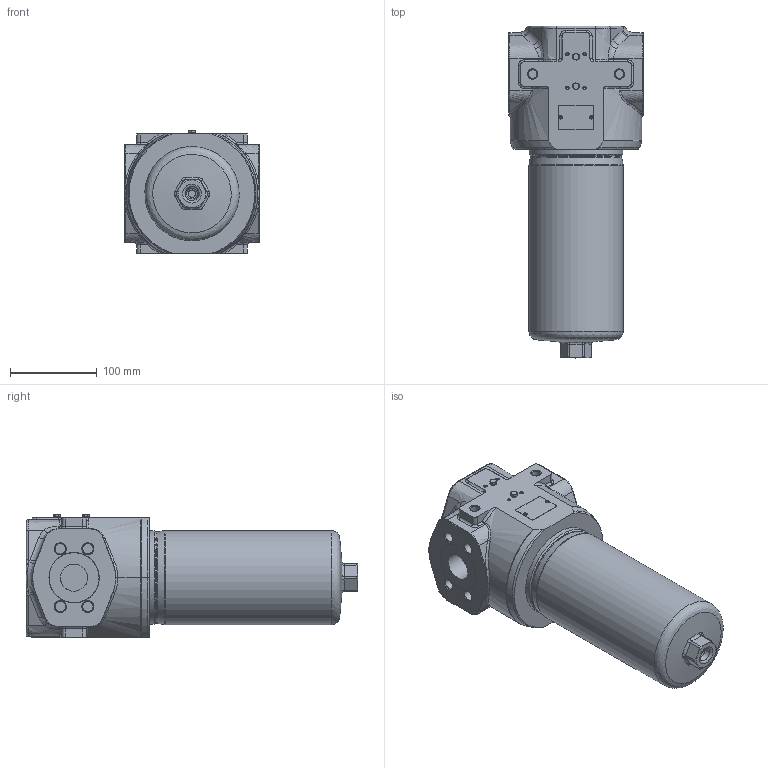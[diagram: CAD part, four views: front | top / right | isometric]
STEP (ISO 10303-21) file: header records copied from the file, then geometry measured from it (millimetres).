
FILE_DESCRIPTION((''),'2;1');
FILE_NAME('U:\Users\i.maeder\14950200-HD417.stp', '2013-08-06T14:31:35',('User'),('SDRC'),'I-DEAS Master Series 9','UNIX', 'Yes');
FILE_SCHEMA(('AUTOMOTIVE_DESIGN { 1 0 10303 214 1 1 1 1 }'));
Length unit declared in the file: millimetre
Products named in the file (1): 14950200(236912)
Bounding box: 155.4 x 383.5 x 141.9 mm (x, y, z)
Volume: 4615935.3 mm3; surface area: 206448.3 mm2
Topology: 1 solids, 5 shells, 420 faces, 933 edges, 559 vertices
Faces by surface type: bspline 420
Entity records: 14781 total; most frequent: CARTESIAN_POINT 9465, ORIENTED_EDGE 1834, EDGE_CURVE 917, VERTEX_POINT 553, EDGE_LOOP 470, FACE_OUTER_BOUND 420, ADVANCED_FACE 420, B_SPLINE_CURVE_WITH_KNOTS 325
